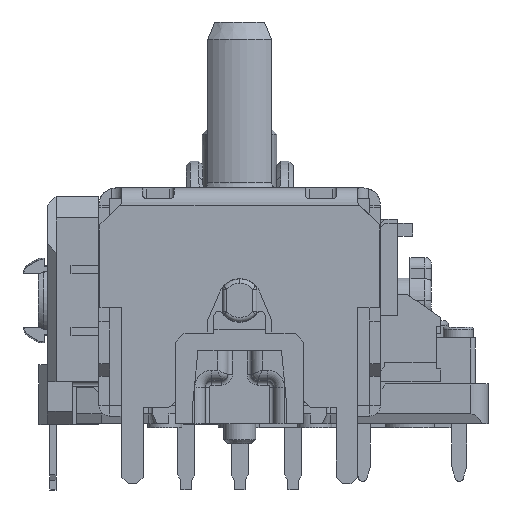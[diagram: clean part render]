
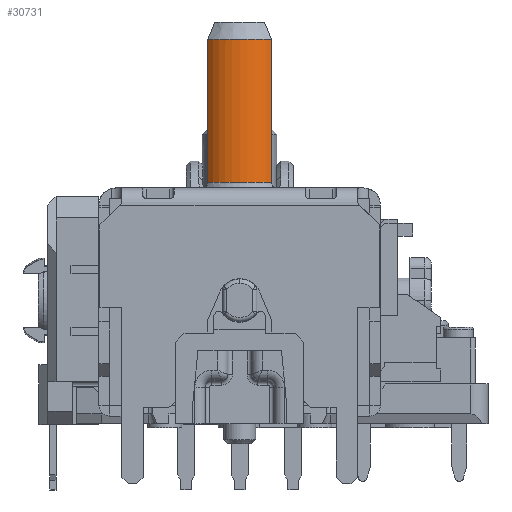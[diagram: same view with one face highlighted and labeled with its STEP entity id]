
A CAD part, left-side view. The second image highlights one B-rep face of the part: STEP entity #30731.
In plain terms, the highlighted cylindrical face has radius 1.998 mm (diameter 3.995 mm), a partial arc.
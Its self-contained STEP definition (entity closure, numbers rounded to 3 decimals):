
#704 = LINE ( 'NONE', #38260, #14435 ) ;
#2624 = VERTEX_POINT ( 'NONE', #54444 ) ;
#3967 = CARTESIAN_POINT ( 'NONE',  ( -1.327, 1.493, 11.475 ) ) ;
#4400 = CARTESIAN_POINT ( 'NONE',  ( -1.328, -1.492, 11.489 ) ) ;
#4764 = EDGE_CURVE ( 'NONE', #54413, #37034, #46905, .T. ) ;
#5466 = CARTESIAN_POINT ( 'NONE',  ( -1.328, -1.492, 11.489 ) ) ;
#6460 = CARTESIAN_POINT ( 'NONE',  ( -1.328, -1.492, 8.297 ) ) ;
#8229 = CARTESIAN_POINT ( 'NONE',  ( -1.328, 1.492, 11.489 ) ) ;
#8621 = CARTESIAN_POINT ( 'NONE',  ( 0., 0., 11.469 ) ) ;
#8635 = ORIENTED_EDGE ( 'NONE', *, *, #57633, .T. ) ;
#14364 = CARTESIAN_POINT ( 'NONE',  ( -1.327, -1.493, 11.475 ) ) ;
#14435 = VECTOR ( 'NONE', #59985, 1000. ) ;
#16111 = FACE_OUTER_BOUND ( 'NONE', #38937, .T. ) ;
#16820 = DIRECTION ( 'NONE',  ( 0., 0., -1. ) ) ;
#21048 = DIRECTION ( 'NONE',  ( 0., 0., 1. ) ) ;
#22669 = AXIS2_PLACEMENT_3D ( 'NONE', #8621, #68565, #62947 ) ;
#23318 = EDGE_CURVE ( 'NONE', #2624, #57258, #55427, .T. ) ;
#27369 = ORIENTED_EDGE ( 'NONE', *, *, #4764, .T. ) ;
#28375 = AXIS2_PLACEMENT_3D ( 'NONE', #51663, #57330, #67546 ) ;
#30731 = ADVANCED_FACE ( 'NONE', ( #16111 ), #36983, .T. ) ;
#32384 = LINE ( 'NONE', #6460, #41000 ) ;
#32779 = CARTESIAN_POINT ( 'NONE',  ( -1.328, -1.492, 18.15 ) ) ;
#33286 = ORIENTED_EDGE ( 'NONE', *, *, #41977, .T. ) ;
#34954 = CARTESIAN_POINT ( 'NONE',  ( -1.327, -1.493, 11.469 ) ) ;
#35985 = CARTESIAN_POINT ( 'NONE',  ( -1.328, -1.492, 11.482 ) ) ;
#36983 = CYLINDRICAL_SURFACE ( 'NONE', #67826, 1.998 ) ;
#37034 = VERTEX_POINT ( 'NONE', #5466 ) ;
#37995 = ORIENTED_EDGE ( 'NONE', *, *, #23318, .T. ) ;
#38260 = CARTESIAN_POINT ( 'NONE',  ( -1.328, 1.492, 8.297 ) ) ;
#38393 = DIRECTION ( 'NONE',  ( 1., 0., 0. ) ) ;
#38937 = EDGE_LOOP ( 'NONE', ( #56274, #37995, #33286, #27369, #8635, #62557 ) ) ;
#40547 = CARTESIAN_POINT ( 'NONE',  ( -1.327, 1.493, 11.469 ) ) ;
#41000 = VECTOR ( 'NONE', #21048, 1000. ) ;
#41977 = EDGE_CURVE ( 'NONE', #57258, #54413, #70184, .T. ) ;
#42998 = VERTEX_POINT ( 'NONE', #32779 ) ;
#45403 = CARTESIAN_POINT ( 'NONE',  ( -1.327, 1.493, 11.469 ) ) ;
#46254 = EDGE_CURVE ( 'NONE', #42998, #65971, #48829, .T. ) ;
#46905 = B_SPLINE_CURVE_WITH_KNOTS ( 'NONE', 3,
 ( #63000, #14364, #35985, #4400 ),
 .UNSPECIFIED., .F., .F.,
 ( 4, 4 ),
 ( 0., 0. ),
 .UNSPECIFIED. ) ;
#47281 = CARTESIAN_POINT ( 'NONE',  ( -1.328, 1.492, 18.15 ) ) ;
#48829 = CIRCLE ( 'NONE', #28375, 1.998 ) ;
#49111 = CARTESIAN_POINT ( 'NONE',  ( 0., 0., -7.355 ) ) ;
#51597 = CARTESIAN_POINT ( 'NONE',  ( -1.328, 1.492, 11.482 ) ) ;
#51663 = CARTESIAN_POINT ( 'NONE',  ( 0., 0., 18.15 ) ) ;
#54413 = VERTEX_POINT ( 'NONE', #34954 ) ;
#54444 = CARTESIAN_POINT ( 'NONE',  ( -1.328, 1.492, 11.489 ) ) ;
#55427 = B_SPLINE_CURVE_WITH_KNOTS ( 'NONE', 3,
 ( #8229, #51597, #3967, #40547 ),
 .UNSPECIFIED., .F., .F.,
 ( 4, 4 ),
 ( 0., 0. ),
 .UNSPECIFIED. ) ;
#56274 = ORIENTED_EDGE ( 'NONE', *, *, #70044, .F. ) ;
#57258 = VERTEX_POINT ( 'NONE', #45403 ) ;
#57330 = DIRECTION ( 'NONE',  ( 0., 0., -1. ) ) ;
#57633 = EDGE_CURVE ( 'NONE', #37034, #42998, #32384, .T. ) ;
#59985 = DIRECTION ( 'NONE',  ( 0., 0., 1. ) ) ;
#62557 = ORIENTED_EDGE ( 'NONE', *, *, #46254, .T. ) ;
#62947 = DIRECTION ( 'NONE',  ( 1., 0., 0. ) ) ;
#63000 = CARTESIAN_POINT ( 'NONE',  ( -1.327, -1.493, 11.469 ) ) ;
#65971 = VERTEX_POINT ( 'NONE', #47281 ) ;
#67546 = DIRECTION ( 'NONE',  ( 1., 0., 0. ) ) ;
#67826 = AXIS2_PLACEMENT_3D ( 'NONE', #49111, #16820, #38393 ) ;
#68565 = DIRECTION ( 'NONE',  ( 0., 0., 1. ) ) ;
#70044 = EDGE_CURVE ( 'NONE', #2624, #65971, #704, .T. ) ;
#70184 = CIRCLE ( 'NONE', #22669, 1.998 ) ;
